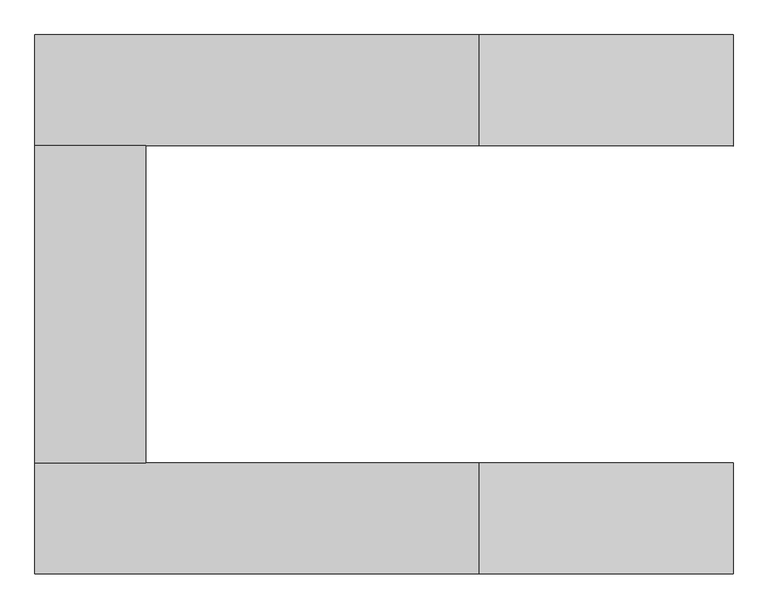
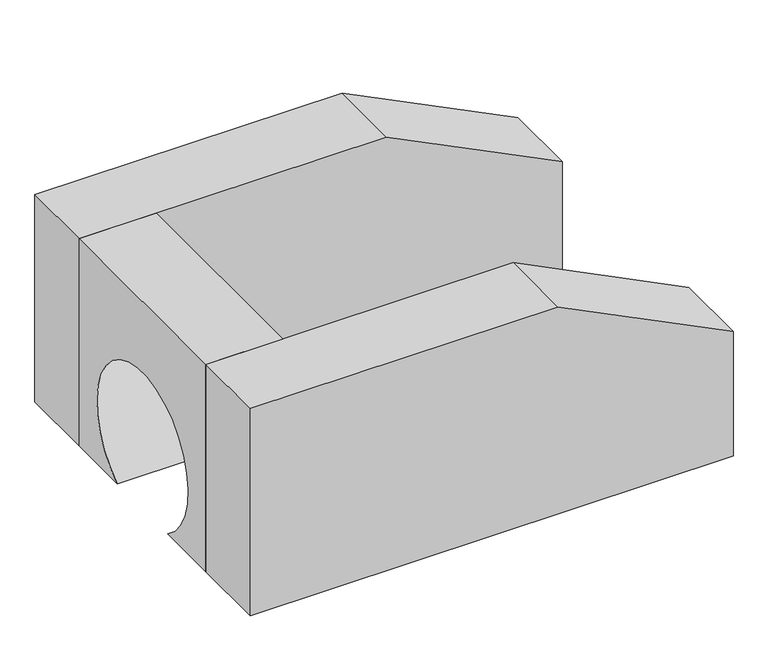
"""IFC4 building model written with IfcOpenShell, lengths in millimetres: proxy geometry, Modèles génériques 6 : Modèles génériques 5."""

from ifc_helpers import new_model, si_unit, point, frame, frame_2d, origin, place, context, project, spatial, polyline, circle_curve, trimmed, segment, composite_curve, outline, extrude, source, transform, mapped, element, save


def generic_models_12d6a13c(model_context):
    return source(origin(), model_context, "Body", "SweptSolid", [
        extrude(outline(composite_curve([segment(polyline([(3153.736413, 1000.0), (3153.736413, 0.0), (2852.7339004, 0.0)]), True, "CONTINUOUS"), segment(trimmed(circle_curve(frame_2d((2653.736413, 300.0)), 360.0), [point((2852.7339004, 0.0))], [point((2454.7389256, 0.0))], True, "CARTESIAN"), True, "CONTINUOUS"), segment(polyline([(2454.7389256, 0.0), (2153.736413, 0.0), (2153.736413, 1000.0), (3153.736413, 1000.0)]), True, "CONTINUOUS")], self_intersect=False)), frame((1071.2006973, 0.0, 0.0), z_axis=(1.0, 0.0, 0.0), x_axis=(0.0, 1.0, 0.0)), (0.0, 0.0, 1.0), 350.0),
        extrude(outline(polyline([(600.0, 3271.2006973), (1000.0, 2471.2006973), (1000.0, 1071.2006973), (0.0, 1071.2006973), (0.0, 3271.2006973), (600.0, 3271.2006973)])), frame((0.0, 3153.736413, 0.0), z_axis=(0.0, 1.0, 0.0), x_axis=(0.0, 0.0, 1.0)), (0.0, 0.0, 1.0), 350.0),
        extrude(outline(polyline([(600.0, 3271.2006973), (1000.0, 2471.2006973), (1000.0, 1071.2006973), (0.0, 1071.2006973), (0.0, 3271.2006973), (600.0, 3271.2006973)])), frame((0.0, 1803.736413, 0.0), z_axis=(0.0, 1.0, 0.0), x_axis=(0.0, 0.0, 1.0)), (0.0, 0.0, 1.0), 350.0),
    ])


if __name__ == "__main__":
    model = new_model("IFC4")
    model_context = context("Model", 3, world=origin())
    ifc_project = project(units=[si_unit("LENGTHUNIT", "METRE", prefix="MILLI")], contexts=[model_context])
    site = spatial("IfcSite", under=ifc_project)
    building = spatial("IfcBuilding", under=site)
    placement = place(None, origin())
    generic_models_shape = generic_models_12d6a13c(model_context)
    element("IfcBuildingElementProxy", 1, Name="Modèles génériques 6 : Modèles génériques 5", ObjectType="Modèles génériques 6 : Modèles génériques 5", at=placement, inside=building, context=model_context, shape_type="MappedRepresentation", body=[
        mapped(generic_models_shape, transform((0.0, 0.0, 0.0), x_axis=(1.0, 0.0, 0.0), y_axis=(0.0, 1.0, 0.0), z_axis=(0.0, 0.0, 1.0))),
    ])
    save(model, "model.ifc")
